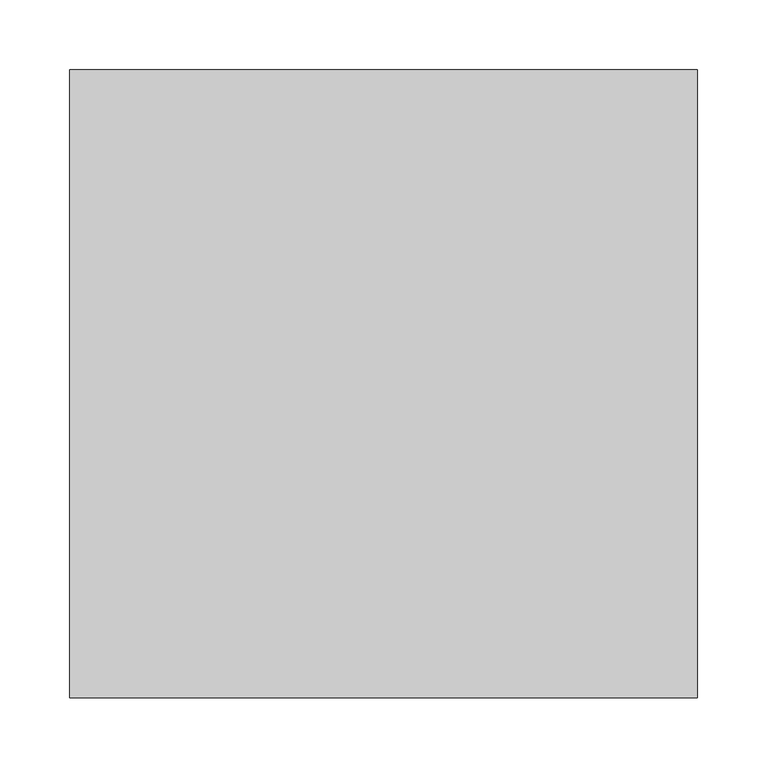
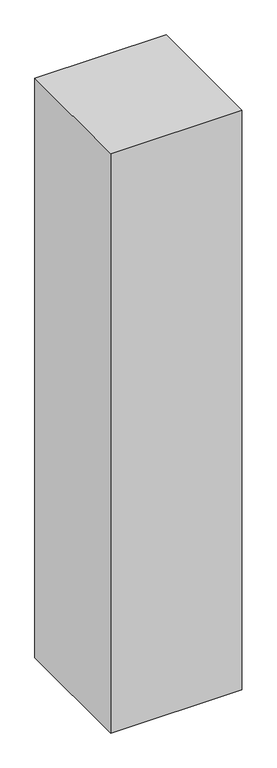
"""IFC4 building model written with IfcOpenShell, lengths in millimetres: proxy geometry, ▲GM_Зона обслуживания : Тип."""

from ifc_helpers import new_model, si_unit, origin, origin_with_axes, place, context, project, spatial, polyline, outline, extrude, source, transform, mapped, element, save


def generic_models_f8d4ad85(model_context):
    return source(origin(), model_context, "Body", "SweptSolid", [
        extrude(outline(polyline([(450.0, -450.0), (0.0, -450.0), (0.0, 0.0), (450.0, 0.0), (450.0, -450.0)])), origin_with_axes(), (0.0, 0.0, 1.0), 2100.0),
    ])


if __name__ == "__main__":
    model = new_model("IFC4")
    model_context = context("Model", 3, world=origin())
    ifc_project = project(units=[si_unit("LENGTHUNIT", "METRE", prefix="MILLI")], contexts=[model_context])
    site = spatial("IfcSite", under=ifc_project)
    building = spatial("IfcBuilding", under=site)
    placement = place(None, origin())
    generic_models_shape = generic_models_f8d4ad85(model_context)
    element("IfcBuildingElementProxy", 1, Name="▲GM_Зона обслуживания : Тип", ObjectType="▲GM_Зона обслуживания : Тип", at=placement, inside=building, context=model_context, shape_type="MappedRepresentation", body=[
        mapped(generic_models_shape, transform((0.0, 0.0, 0.0), x_axis=(1.0, 0.0, 0.0), y_axis=(0.0, 1.0, 0.0), z_axis=(0.0, 0.0, 1.0))),
    ])
    save(model, "model.ifc")
